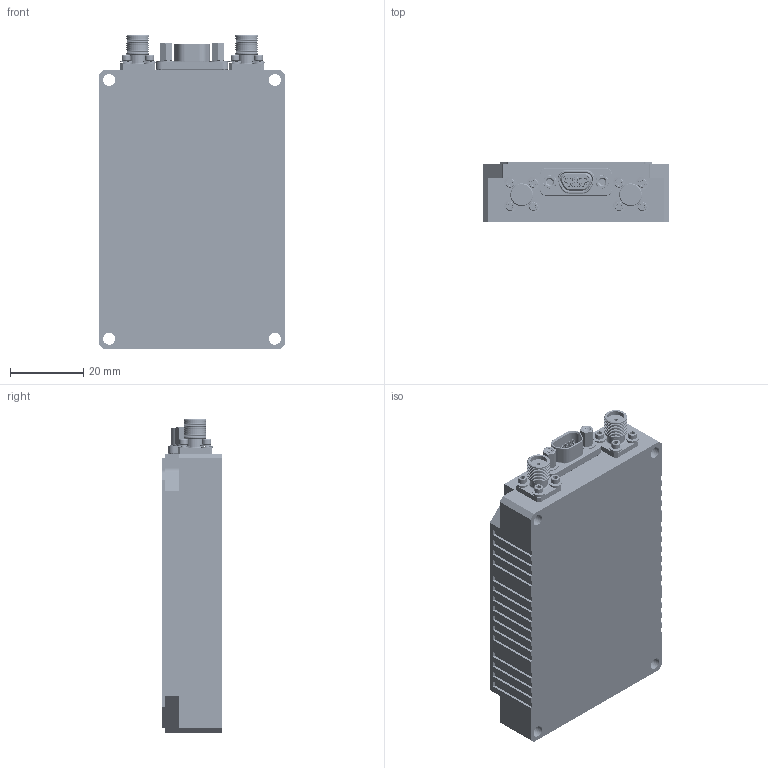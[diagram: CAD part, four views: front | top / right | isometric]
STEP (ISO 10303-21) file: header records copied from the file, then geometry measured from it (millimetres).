
FILE_DESCRIPTION (( 'STEP AP214' ), '1' );
FILE_NAME ('NW-BA-LS-10-S01-D30.STEP', '2025-03-28T18:21:45', ( '' ), ( '' ), 'SwSTEP 2.0', 'SolidWorks 2021', '' );
FILE_SCHEMA (( 'AUTOMOTIVE_DESIGN' ));
Length unit declared in the file: inch
Products named in the file (14): MDM9SH003; 92196A054 (73379) - SCREW, SHCS, SS, #0-80 X .188L_92196A054; MDM JACK POST ASSEMBLY; 5710-120-16 - WASHER, FLAT, SS, #0, .13 OD X .02 THK_92141A001; 92146A510 (0171926) - WASHER, SPLIT-LOCK, SS, #0, .14 OD X .01 THK_92146A510; MDM JACK POST LOCK_98449A500; NW-BA-LS-10-S01-D30; 91771A082 (0173399) - SCREW, PFHMS, SS, #2-56 X .563L_91771A082; A6106-1300; 901-10124_Standard; FS-SCREW STACK UP 0-80 x .188 long; MDM JACK POST - bill_91075A512; A6106-1200; 96640A023 (0145196) - SCREW, PFHMS, SS, #2-56 X .250L, BLACK OXIDE_96640A023
Assembly tree (31 placements, depth 3):
  NW-BA-LS-10-S01-D30
    A6106-1200
    A6106-1300
    901-10124_Standard  x2
    MDM9SH003
    FS-SCREW STACK UP 0-80 x .188 long  x8
      92146A510 (0171926) - WASHER, SPLIT-LOCK, SS, #0, .14 OD X .01 THK_92146A510
      5710-120-16 - WASHER, FLAT, SS, #0, .13 OD X .02 THK_92141A001
      92196A054 (73379) - SCREW, SHCS, SS, #0-80 X .188L_92196A054
    MDM JACK POST ASSEMBLY  x2
      MDM JACK POST - bill_91075A512
      MDM JACK POST LOCK_98449A500
    96640A023 (0145196) - SCREW, PFHMS, SS, #2-56 X .250L, BLACK OXIDE_96640A023  x4
    91771A082 (0173399) - SCREW, PFHMS, SS, #2-56 X .563L_91771A082  x7
Bounding box: 50.8 x 16.51 x 85.68 mm (x, y, z)
Volume: 26725.7 mm3; surface area: 32848.2 mm2
Topology: 46 solids, 46 shells, 4086 faces, 10956 edges, 7142 vertices
Faces by surface type: cylinder 1647, plane 1407, bspline 508, cone 448, torus 76
Entity records: 109483 total; most frequent: CARTESIAN_POINT 45297, ORIENTED_EDGE 12554, DIRECTION 10131, EDGE_CURVE 6277, VERTEX_POINT 4118, VECTOR 3783, LINE 3783, AXIS2_PLACEMENT_3D 3174
